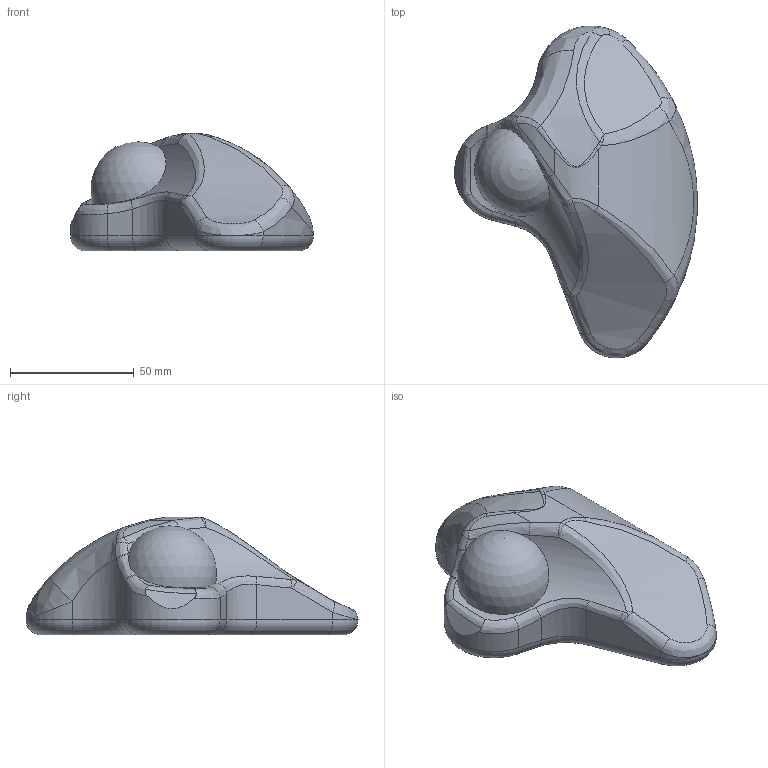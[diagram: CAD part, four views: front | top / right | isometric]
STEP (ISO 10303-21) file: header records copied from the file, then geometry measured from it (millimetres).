
FILE_DESCRIPTION(/* description */ ('Logicool トラックボール'),/* implementation_level */ '2;1');
FILE_NAME(/* name */ 'C:\Users\Fujimoto-s\OneDrive\Inventor\WorkSpace\\X2\305D306E4ED6\X0\\ホームページ用\\X2\30C030A630F330ED30FC30C97D206750\X0\\ＰＣ関係\\X2\30A230C330D730ED30FC30C97528\X0\\ｍ５７０ｔ\ｍ５７０ｔ.stp',/* time_stamp */ '2024-08-13T16:50:40+09:00',/* author */ ('Fujimoto-s'),/* organization */ (''),/* preprocessor_version */ 'ST-DEVELOPER v15.2',/* originating_system */ 'Autodesk Inventor 2014',/* authorisation */ '');
FILE_SCHEMA (('AUTOMOTIVE_DESIGN { 1 0 10303 214 3 1 1 }'));
Length unit declared in the file: millimetre
Products named in the file (1): ｍ５７０ｔ
Bounding box: 97.98 x 133.94 x 47.49 mm (x, y, z)
Volume: 247337.2 mm3; surface area: 24261.8 mm2
Topology: 1 solids, 1 shells, 67 faces, 159 edges, 91 vertices
Faces by surface type: bspline 38, cylinder 18, torus 6, plane 3, sphere 2
Entity records: 3137 total; most frequent: CARTESIAN_POINT 1839, ORIENTED_EDGE 308, DIRECTION 188, EDGE_CURVE 154, VERTEX_POINT 89, AXIS2_PLACEMENT_3D 87, B_SPLINE_CURVE_WITH_KNOTS 83, FACE_OUTER_BOUND 67
